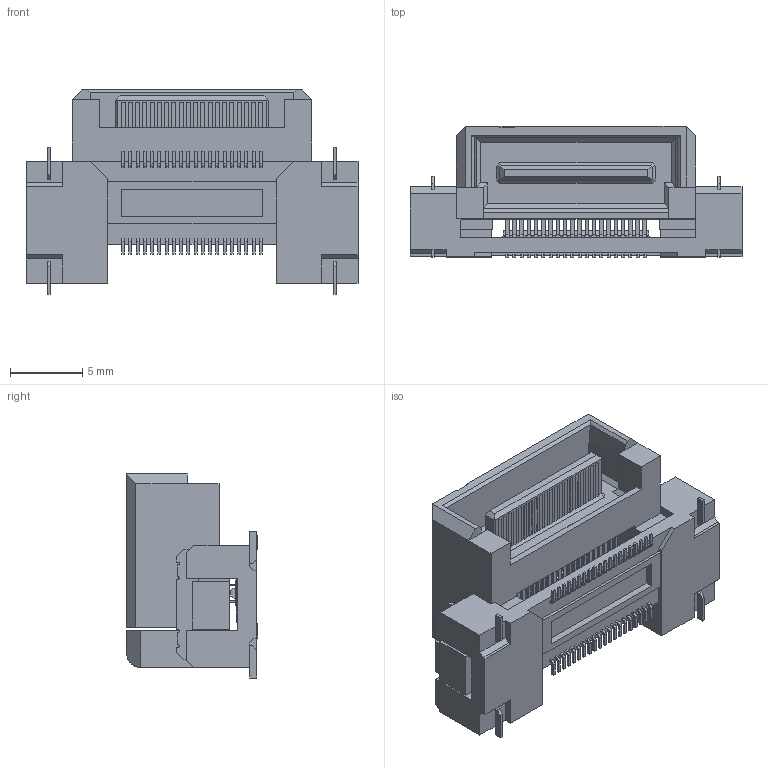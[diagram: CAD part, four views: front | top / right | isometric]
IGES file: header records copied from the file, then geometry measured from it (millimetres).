
Start section: Elysium IGES Interface
Global section: file name: 69HC:\Users\1314\Desktop\temp\回覧用-一時的\DTXX\40\P3D045_DT00-040L.igs; native system: Creo Elements/Direct Modeling 19.0F  14-Feb-2017; preprocessor: Creo Element/Direct IGES_3D V2.2; author: Unknown; organization: Unknown; date: 20170718.110836; units: millimetre
Bounding box: 22.92 x 9.05 x 14.09 mm (x, y, z)
Volume: 936.7 mm3; surface area: 2101 mm2
Topology: 1 solids, 1 shells, 2040 faces, 5688 edges, 3712 vertices
Faces by surface type: bspline 2040
